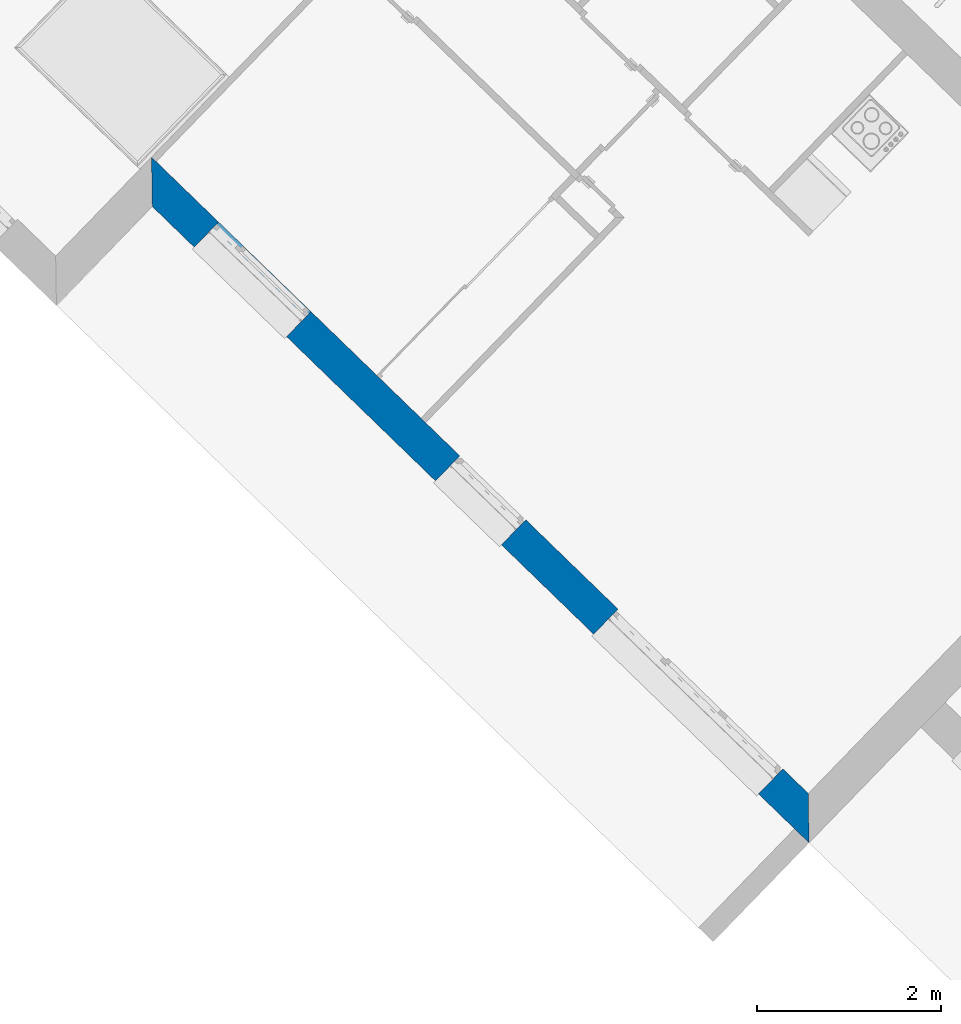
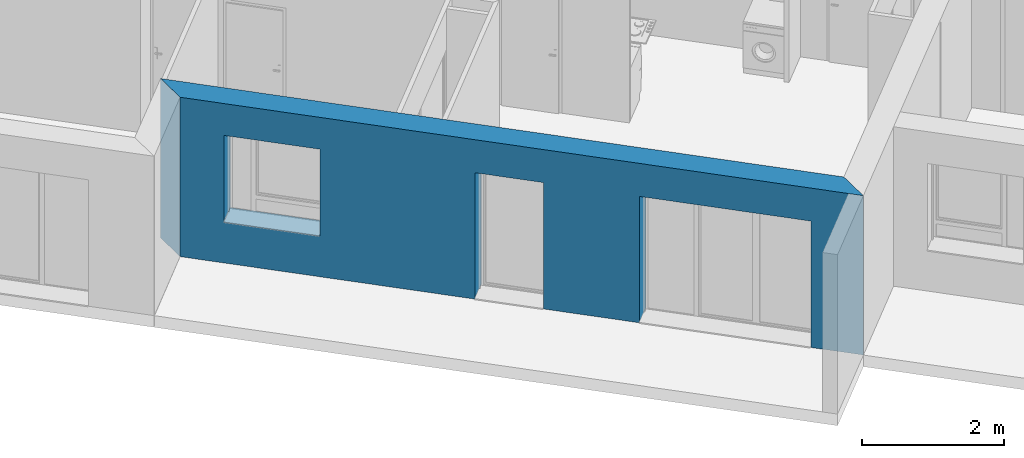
# One storey, part 15 of 195: 1 wall, 3 openings.
"""IFC2X3 building model written with IfcOpenShell, lengths in metres."""

from ifc_helpers import new_model, entity, si_unit, converted_unit, derived_unit, money_unit, direction, frame, origin_with_axes, place, context, subcontext, project, spatial, polyline, outline, extrude, faceted_brep, material, layer, layer_set, layer_usage, type_object, element, save


model = new_model("IFC2X3")

# Units and contexts
model_context = context("Model", 3, precision=1e-05, world=origin_with_axes(), true_north=direction((0.0, 1.0)))
body_context = subcontext(model_context, "Body", "Model", "MODEL_VIEW")
ifc_project = project(units=[si_unit("LENGTHUNIT", "METRE"), si_unit("AREAUNIT", "SQUARE_METRE"), si_unit("VOLUMEUNIT", "CUBIC_METRE"), converted_unit("PLANEANGLEUNIT", "DEGREE", entity("IfcPlaneAngleMeasure", 0.0174532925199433), si_unit("PLANEANGLEUNIT", "RADIAN"), dimensions=[0, 0, 0, 0, 0, 0, 0]), money_unit("CHF"), converted_unit("TIMEUNIT", "Year", entity("IfcTimeMeasure", 31557600.0), si_unit("TIMEUNIT", "SECOND"), dimensions=[0, 0, 1, 0, 0, 0, 0]), si_unit("MASSUNIT", "GRAM", prefix="KILO"), si_unit("THERMODYNAMICTEMPERATUREUNIT", "DEGREE_CELSIUS"), si_unit("LUMINOUSINTENSITYUNIT", "LUMEN"), si_unit("ENERGYUNIT", "JOULE", prefix="MEGA"), derived_unit("THERMALCONDUCTANCEUNIT", [(si_unit("POWERUNIT", "WATT"), 1), (si_unit("LENGTHUNIT", "METRE"), -1), (si_unit("THERMODYNAMICTEMPERATUREUNIT", "KELVIN"), -1)]), derived_unit("SPECIFICHEATCAPACITYUNIT", [(si_unit("ENERGYUNIT", "JOULE"), 1), (si_unit("MASSUNIT", "GRAM", prefix="KILO"), -1), (si_unit("THERMODYNAMICTEMPERATUREUNIT", "KELVIN"), -1)]), derived_unit("MASSDENSITYUNIT", [(si_unit("MASSUNIT", "GRAM", prefix="KILO"), 1), (si_unit("VOLUMEUNIT", "CUBIC_METRE"), -1)])], contexts=[model_context])

# Site, building, storey
site_placement = place(None, origin_with_axes())
site = spatial("IfcSite", under=ifc_project, at=site_placement, Name="Site", CompositionType="ELEMENT")
building_placement = place(site_placement, origin_with_axes())
building = spatial("IfcBuilding", under=site, at=building_placement, Name="Bâtiment", CompositionType="ELEMENT")
storey_placement = place(building_placement, origin_with_axes())
storey = spatial("IfcBuildingStorey", under=building, at=storey_placement, Name="rdc", CompositionType="ELEMENT", Elevation=0.0)

# Wall, openings
ifc_material_1 = material(Name="Parpaing 312445824")
ifc_layer_1 = layer(ifc_material_1, 0.22, ventilated="UNKNOWN")
ifc_material_2 = material(Name="Isolant styromousse 301821074")
ifc_layer_2 = layer(ifc_material_2, 0.16, ventilated="UNKNOWN")
ifc_layer_set = layer_set([ifc_layer_1, ifc_layer_2], Name="isol int 22+16 0836643197")
ifc_layer_usage = layer_usage(ifc_layer_set, "AXIS2", "NEGATIVE", 0.0)
wall_type = type_object("IfcWallType", Name="isol int 22+16 0836643197 380", PredefinedType="NOTDEFINED")
wall_placement = place(storey_placement, frame((9522.723727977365, -1071.439827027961, 57.7), z_axis=(0.0, 0.0, 1.0), x_axis=(-0.7181763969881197, 0.6958610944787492, 0.0)))
wall = element("IfcWallStandardCase", 1, at=wall_placement, inside=storey, type_object=wall_type, material=ifc_layer_usage, Name="Mur-115", context=body_context, shape_type="SweptSolid", body=[
    extrude(outline(polyline([(0.3799999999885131, -0.3800000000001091), (10.33768647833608, -0.3799999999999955), (9.957686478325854, 0.0), (0.0, 0.0), (0.3799999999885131, -0.3800000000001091)])), origin_with_axes(), (0.0, 0.0, 1.0), 2.75),
])
opening_1_placement = place(wall_placement, frame((8.621077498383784, 0.0, 0.7000000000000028), z_axis=(0.0, 0.0, 1.0), x_axis=(1.0, 0.0, 0.0)))
element("IfcOpeningElement", 2, at=opening_1_placement, cuts=wall, Name="Fen-045", context=body_context, shape_type="Brep", body=[
    faceted_brep([(0.7000000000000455, -0.4800000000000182, 1.5), (-0.6999999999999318, -0.4800000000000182, 1.5), (-0.6999999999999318, -5.35736391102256, 1.5), (0.7000000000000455, -5.357363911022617, 1.5), (0.7000000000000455, -0.4800000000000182, 1.700000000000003), (-0.6999999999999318, -0.4800000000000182, 1.700000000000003), (-0.6999999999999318, -0.2999999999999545, 1.5), (-0.6999999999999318, -0.2999999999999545, 0.0), (-0.6999999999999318, -5.35736391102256, 0.0), (0.7000000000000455, -5.357363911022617, 0.0), (0.7000000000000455, -0.3000000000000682, 1.5), (0.7000000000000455, -0.3000000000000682, 0.0), (0.7000000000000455, -0.220000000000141, 1.5), (0.7000000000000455, -0.220000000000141, 1.700000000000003), (-0.6999999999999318, -0.2200000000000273, 1.700000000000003), (-0.6999999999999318, -0.2200000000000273, 1.5), (-0.7000000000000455, 4.977363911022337, 1.5), (-0.7000000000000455, 4.977363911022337, 0.0), (0.6999999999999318, 4.977363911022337, 0.0), (0.6999999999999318, 4.977363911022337, 1.5)], [[[0, 1, 2, 3]], [[1, 0, 4, 5]], [[1, 6, 7, 8, 2]], [[2, 8, 9, 3]], [[10, 0, 3, 9, 11]], [[0, 10, 12, 13, 4]], [[4, 13, 14, 5]], [[6, 1, 5, 14, 15]], [[6, 15, 16, 17, 7]], [[7, 11, 9, 8]], [[12, 10, 11, 18, 19]], [[12, 15, 14, 13]], [[15, 12, 19, 16]], [[19, 18, 17, 16]], [[11, 7, 17, 18]]]),
])
opening_2_placement = place(wall_placement, frame((2.015639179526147, 0.0, 0.0), z_axis=(0.0, 0.0, 1.0), x_axis=(1.0, 0.0, 0.0)))
element("IfcOpeningElement", 3, at=opening_2_placement, cuts=wall, Name="Fen-053", context=body_context, shape_type="Brep", body=[
    faceted_brep([(1.249999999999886, -0.4799999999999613, 2.18), (-1.250000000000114, -0.4799999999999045, 2.18), (-1.25, -5.357363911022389, 2.18), (1.249999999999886, -5.357363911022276, 2.18), (1.249999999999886, -0.4799999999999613, 2.380000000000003), (-1.250000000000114, -0.4799999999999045, 2.380000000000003), (-1.25, -0.2999999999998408, 2.18), (-1.25, -0.2999999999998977, 0.0), (-1.25, -5.357363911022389, 0.0), (1.249999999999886, -5.357363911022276, 0.0), (1.249999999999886, -0.2999999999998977, 2.18), (1.249999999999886, -0.2999999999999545, 0.0), (1.249999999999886, -0.2199999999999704, 2.18), (1.249999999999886, -0.2199999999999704, 2.380000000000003), (-1.250000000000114, -0.2199999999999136, 2.380000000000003), (-1.250000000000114, -0.2199999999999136, 2.18), (-1.25, 4.977363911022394, 2.18), (-1.25, 4.977363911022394, 0.0), (1.249999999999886, 4.977363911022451, 0.0), (1.249999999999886, 4.977363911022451, 2.18)], [[[0, 1, 2, 3]], [[1, 0, 4, 5]], [[1, 6, 7, 8, 2]], [[2, 8, 9, 3]], [[10, 0, 3, 9, 11]], [[0, 10, 12, 13, 4]], [[4, 13, 14, 5]], [[6, 1, 5, 14, 15]], [[6, 15, 16, 17, 7]], [[7, 11, 9, 8]], [[12, 10, 11, 18, 19]], [[12, 15, 14, 13]], [[15, 12, 19, 16]], [[19, 18, 17, 16]], [[11, 7, 17, 18]]]),
])
opening_3_placement = place(wall_placement, frame((5.163672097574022, 0.0, 0.0), z_axis=(0.0, 0.0, 1.0), x_axis=(1.0, 0.0, 0.0)))
element("IfcOpeningElement", 4, at=opening_3_placement, cuts=wall, Name="Fen-052", context=body_context, shape_type="Brep", body=[
    faceted_brep([(0.5000000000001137, -0.4799999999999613, 2.18), (-0.4999999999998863, -0.480000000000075, 2.18), (-0.4999999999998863, -5.357363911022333, 2.18), (0.5000000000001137, -5.357363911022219, 2.18), (0.5000000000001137, -0.4799999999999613, 2.380000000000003), (-0.4999999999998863, -0.480000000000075, 2.380000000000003), (-0.4999999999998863, -0.3000000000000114, 2.18), (-0.4999999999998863, -0.3000000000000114, 0.0), (-0.4999999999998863, -5.357363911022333, 0.0), (0.5000000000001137, -5.357363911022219, 0.0), (0.5, -0.2999999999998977, 2.18), (0.5000000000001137, -0.2999999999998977, 0.0), (0.5, -0.2199999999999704, 2.18), (0.5, -0.2199999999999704, 2.380000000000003), (-0.4999999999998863, -0.2200000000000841, 2.380000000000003), (-0.4999999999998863, -0.2200000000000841, 2.18), (-0.5, 4.977363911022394, 2.18), (-0.5, 4.977363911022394, 0.0), (0.5000000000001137, 4.977363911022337, 0.0), (0.5000000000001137, 4.977363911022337, 2.18)], [[[0, 1, 2, 3]], [[1, 0, 4, 5]], [[1, 6, 7, 8, 2]], [[2, 8, 9, 3]], [[10, 0, 3, 9, 11]], [[0, 10, 12, 13, 4]], [[14, 5, 4, 13]], [[6, 1, 5, 14, 15]], [[6, 15, 16, 17, 7]], [[7, 11, 9, 8]], [[12, 10, 11, 18, 19]], [[12, 15, 14, 13]], [[15, 12, 19, 16]], [[19, 18, 17, 16]], [[11, 7, 17, 18]]]),
])

save(model, "model.ifc")
